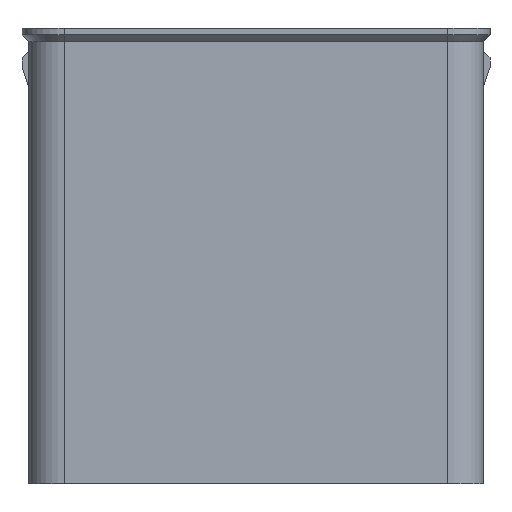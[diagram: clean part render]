
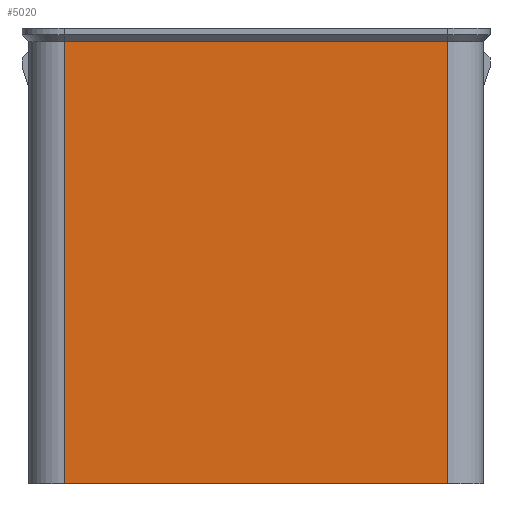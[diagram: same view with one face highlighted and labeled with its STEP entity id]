
A CAD part, left-side view. The second image highlights one B-rep face of the part: STEP entity #5020.
In plain terms, the highlighted planar face has unit normal (-1, 0, 0).
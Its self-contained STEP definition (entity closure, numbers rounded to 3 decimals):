
#1528 = PLANE('',#1529);
#1529 = AXIS2_PLACEMENT_3D('',#1530,#1531,#1532);
#1530 = CARTESIAN_POINT('',(132.5,26.5,99.));
#1531 = DIRECTION('',(-0.707,0.,-0.707));
#1532 = DIRECTION('',(0.,-1.,-0.));
#1792 = PLANE('',#1793);
#1793 = AXIS2_PLACEMENT_3D('',#1794,#1795,#1796);
#1794 = CARTESIAN_POINT('',(133.5,27.5,30.));
#1795 = DIRECTION('',(0.,0.,1.));
#1796 = DIRECTION('',(1.,0.,0.));
#1818 = CYLINDRICAL_SURFACE('',#1819,5.5);
#1819 = AXIS2_PLACEMENT_3D('',#1820,#1821,#1822);
#1820 = CARTESIAN_POINT('',(139.,92.,30.));
#1821 = DIRECTION('',(0.,0.,1.));
#1822 = DIRECTION('',(-1.,-0.,0.));
#3566 = CYLINDRICAL_SURFACE('',#3567,5.5);
#3567 = AXIS2_PLACEMENT_3D('',#3568,#3569,#3570);
#3568 = CARTESIAN_POINT('',(139.,33.,30.));
#3569 = DIRECTION('',(0.,0.,1.));
#3570 = DIRECTION('',(-1.,-0.,0.));
#3707 = EDGE_CURVE('',#3708,#3710,#3712,.T.);
#3708 = VERTEX_POINT('',#3709);
#3709 = CARTESIAN_POINT('',(133.5,33.,98.));
#3710 = VERTEX_POINT('',#3711);
#3711 = CARTESIAN_POINT('',(133.5,92.,98.));
#3712 = SURFACE_CURVE('',#3713,(#3717,#3724),.PCURVE_S1.);
#3713 = LINE('',#3714,#3715);
#3714 = CARTESIAN_POINT('',(133.5,27.5,98.));
#3715 = VECTOR('',#3716,1.);
#3716 = DIRECTION('',(0.,1.,0.));
#3717 = PCURVE('',#1528,#3718);
#3718 = DEFINITIONAL_REPRESENTATION('',(#3719),#3723);
#3719 = LINE('',#3720,#3721);
#3720 = CARTESIAN_POINT('',(-1.,-1.414));
#3721 = VECTOR('',#3722,1.);
#3722 = DIRECTION('',(-1.,0.));
#3723 = ( GEOMETRIC_REPRESENTATION_CONTEXT(2) 
PARAMETRIC_REPRESENTATION_CONTEXT() REPRESENTATION_CONTEXT('2D SPACE',''
  ) );
#3724 = PCURVE('',#3725,#3730);
#3725 = PLANE('',#3726);
#3726 = AXIS2_PLACEMENT_3D('',#3727,#3728,#3729);
#3727 = CARTESIAN_POINT('',(133.5,27.5,30.));
#3728 = DIRECTION('',(1.,0.,0.));
#3729 = DIRECTION('',(0.,0.,1.));
#3730 = DEFINITIONAL_REPRESENTATION('',(#3731),#3735);
#3731 = LINE('',#3732,#3733);
#3732 = CARTESIAN_POINT('',(68.,0.));
#3733 = VECTOR('',#3734,1.);
#3734 = DIRECTION('',(0.,-1.));
#3735 = ( GEOMETRIC_REPRESENTATION_CONTEXT(2) 
PARAMETRIC_REPRESENTATION_CONTEXT() REPRESENTATION_CONTEXT('2D SPACE',''
  ) );
#3833 = EDGE_CURVE('',#3834,#3836,#3838,.T.);
#3834 = VERTEX_POINT('',#3835);
#3835 = CARTESIAN_POINT('',(133.5,33.,30.));
#3836 = VERTEX_POINT('',#3837);
#3837 = CARTESIAN_POINT('',(133.5,92.,30.));
#3838 = SURFACE_CURVE('',#3839,(#3843,#3850),.PCURVE_S1.);
#3839 = LINE('',#3840,#3841);
#3840 = CARTESIAN_POINT('',(133.5,27.5,30.));
#3841 = VECTOR('',#3842,1.);
#3842 = DIRECTION('',(0.,1.,0.));
#3843 = PCURVE('',#1792,#3844);
#3844 = DEFINITIONAL_REPRESENTATION('',(#3845),#3849);
#3845 = LINE('',#3846,#3847);
#3846 = CARTESIAN_POINT('',(0.,0.));
#3847 = VECTOR('',#3848,1.);
#3848 = DIRECTION('',(0.,1.));
#3849 = ( GEOMETRIC_REPRESENTATION_CONTEXT(2) 
PARAMETRIC_REPRESENTATION_CONTEXT() REPRESENTATION_CONTEXT('2D SPACE',''
  ) );
#3850 = PCURVE('',#3725,#3851);
#3851 = DEFINITIONAL_REPRESENTATION('',(#3852),#3856);
#3852 = LINE('',#3853,#3854);
#3853 = CARTESIAN_POINT('',(0.,0.));
#3854 = VECTOR('',#3855,1.);
#3855 = DIRECTION('',(0.,-1.));
#3856 = ( GEOMETRIC_REPRESENTATION_CONTEXT(2) 
PARAMETRIC_REPRESENTATION_CONTEXT() REPRESENTATION_CONTEXT('2D SPACE',''
  ) );
#4166 = EDGE_CURVE('',#3836,#3710,#4167,.T.);
#4167 = SURFACE_CURVE('',#4168,(#4172,#4179),.PCURVE_S1.);
#4168 = LINE('',#4169,#4170);
#4169 = CARTESIAN_POINT('',(133.5,92.,30.));
#4170 = VECTOR('',#4171,1.);
#4171 = DIRECTION('',(0.,0.,1.));
#4172 = PCURVE('',#1818,#4173);
#4173 = DEFINITIONAL_REPRESENTATION('',(#4174),#4178);
#4174 = LINE('',#4175,#4176);
#4175 = CARTESIAN_POINT('',(-0.,0.));
#4176 = VECTOR('',#4177,1.);
#4177 = DIRECTION('',(-0.,1.));
#4178 = ( GEOMETRIC_REPRESENTATION_CONTEXT(2) 
PARAMETRIC_REPRESENTATION_CONTEXT() REPRESENTATION_CONTEXT('2D SPACE',''
  ) );
#4179 = PCURVE('',#3725,#4180);
#4180 = DEFINITIONAL_REPRESENTATION('',(#4181),#4185);
#4181 = LINE('',#4182,#4183);
#4182 = CARTESIAN_POINT('',(0.,-64.5));
#4183 = VECTOR('',#4184,1.);
#4184 = DIRECTION('',(1.,0.));
#4185 = ( GEOMETRIC_REPRESENTATION_CONTEXT(2) 
PARAMETRIC_REPRESENTATION_CONTEXT() REPRESENTATION_CONTEXT('2D SPACE',''
  ) );
#4997 = EDGE_CURVE('',#3834,#3708,#4998,.T.);
#4998 = SURFACE_CURVE('',#4999,(#5003,#5010),.PCURVE_S1.);
#4999 = LINE('',#5000,#5001);
#5000 = CARTESIAN_POINT('',(133.5,33.,30.));
#5001 = VECTOR('',#5002,1.);
#5002 = DIRECTION('',(0.,0.,1.));
#5003 = PCURVE('',#3566,#5004);
#5004 = DEFINITIONAL_REPRESENTATION('',(#5005),#5009);
#5005 = LINE('',#5006,#5007);
#5006 = CARTESIAN_POINT('',(0.,0.));
#5007 = VECTOR('',#5008,1.);
#5008 = DIRECTION('',(0.,1.));
#5009 = ( GEOMETRIC_REPRESENTATION_CONTEXT(2) 
PARAMETRIC_REPRESENTATION_CONTEXT() REPRESENTATION_CONTEXT('2D SPACE',''
  ) );
#5010 = PCURVE('',#3725,#5011);
#5011 = DEFINITIONAL_REPRESENTATION('',(#5012),#5016);
#5012 = LINE('',#5013,#5014);
#5013 = CARTESIAN_POINT('',(0.,-5.5));
#5014 = VECTOR('',#5015,1.);
#5015 = DIRECTION('',(1.,0.));
#5016 = ( GEOMETRIC_REPRESENTATION_CONTEXT(2) 
PARAMETRIC_REPRESENTATION_CONTEXT() REPRESENTATION_CONTEXT('2D SPACE',''
  ) );
#5020 = ADVANCED_FACE('',(#5021),#3725,.F.);
#5021 = FACE_BOUND('',#5022,.F.);
#5022 = EDGE_LOOP('',(#5023,#5024,#5025,#5026));
#5023 = ORIENTED_EDGE('',*,*,#3707,.F.);
#5024 = ORIENTED_EDGE('',*,*,#4997,.F.);
#5025 = ORIENTED_EDGE('',*,*,#3833,.T.);
#5026 = ORIENTED_EDGE('',*,*,#4166,.T.);
